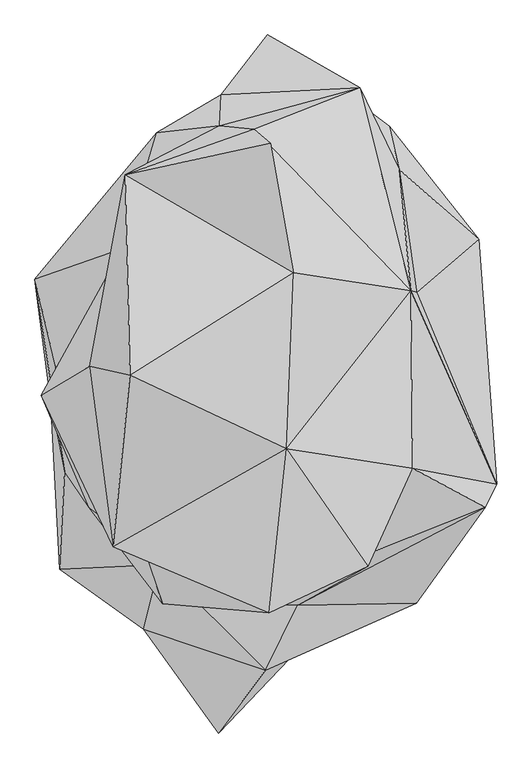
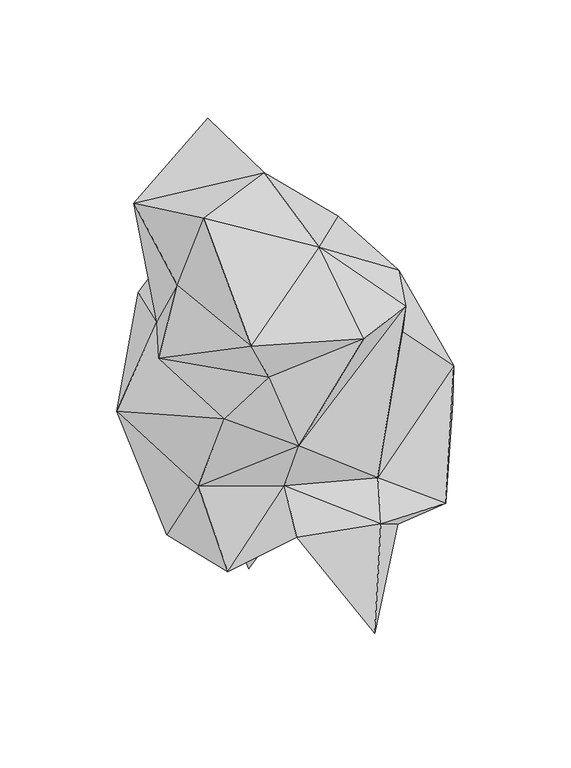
"""IFC4 building model written with IfcOpenShell, lengths in millimetres: geographic element geometry, Enscape AssetDefinition - Potted Plant 217 Dumb Cane : Enscape AssetDefinition - Potted Plant 217 Dumb Cane 2."""

from ifc_helpers import new_model, si_unit, origin, place, context, project, spatial, triangles, source, transform, mapped, element, save


def geographic_element_7dfcdec6(model_context):
    return source(origin(), model_context, "Body", "Tessellation", [
        triangles([(-248.1504237, -288.4227293, 728.7513754), (-342.7098953, 107.7399989, 545.8710048), (-291.1984501, -225.8575075, 492.9253266), (-154.0272263, -499.3928824, 447.9741096), (-126.2047148, -387.4320929, 534.7190329), (-315.0455229, -103.8081895, 272.7064466), (-133.5393416, -170.0325356, 239.2507125), (-299.9945339, -395.3829157, 327.9806345), (-84.4055039, -415.587242, 405.8313332), (55.4759788, -82.7095409, 187.9410356), (-64.3429748, -4.4116845, 151.3060442), (7.4709608, 91.6637818, 153.0074666), (-15.5090608, -10.4975185, 3.5609768), (-54.8106806, 218.4465318, 282.4241492), (185.9506047, 180.3119227, 282.6368179), (190.9021375, -287.7519854, 326.8518153), (353.1801501, -218.5010706, 416.3888646), (286.4922875, -28.8041012, 225.9174966), (74.3006156, 315.4436454, 456.9229094), (-19.2281823, 428.0587918, 626.18111), (60.7819912, 531.3271251, 562.3779551), (272.281091, 372.9046002, 424.5741935), (290.429529, 297.4315181, 714.7364605), (320.3351709, 85.512513, 672.2010481), (427.7916206, 176.6091691, 550.4298835), (-21.7094125, 373.7934631, 791.0493896), (221.44584, 439.363407, 745.4765173), (-247.9377368, 100.9343278, 271.4903508), (-131.2053544, 361.9326319, 694.3086376), (37.7310795, 367.3095202, 1006.349402), (-177.5307517, -59.2114612, 1200.0000092), (-185.7160987, 289.1425618, 1038.7418289), (65.9680392, 343.2170228, 1187.8392689), (106.5511816, 119.1209267, 1136.5949404), (-247.9214042, -43.5715183, 1002.7228792), (-332.0760241, -93.3761137, 831.3052174), (-191.3056739, 160.2712129, 744.1513802), (-155.2378355, -356.3430385, 869.4890785), (-206.967436, -356.7793127, 986.0577627), (312.8860253, -220.616948, 961.3328184), (94.014147, -186.8340174, 1090.6348097), (459.3932528, -248.0358958, 509.5086894), (309.7667753, 88.0046574, 946.5653332), (240.3577126, -366.9114341, 880.7336683), (235.4988885, -390.2513612, 978.4122992), (63.715842, -470.7469202, 983.4837919), (-120.9695784, -454.8070501, 699.6855623), (113.1332562, -458.0735295, 517.8739855), (439.4779349, -287.8392438, 656.544809), (319.3536175, -454.3162734, 363.4813382), (57.7827057, -570.0779574, 460.5984118), (-24.2833515, -679.3612215, 209.0451435), (152.1840339, -494.7575912, 379.4648466)], [[2, 1, 37], [1, 36, 37], [1, 38, 36], [9, 52, 4], [9, 16, 53], [53, 52, 9], [51, 52, 53], [4, 51, 5], [52, 51, 4], [50, 16, 17], [53, 16, 50], [53, 50, 51], [17, 42, 50], [49, 50, 42], [44, 48, 49], [48, 51, 50], [50, 49, 48], [51, 48, 5], [47, 5, 48], [1, 47, 38], [47, 46, 38], [47, 48, 45], [45, 48, 44], [47, 45, 46], [40, 45, 44], [42, 40, 49], [44, 49, 40], [43, 42, 24], [43, 40, 42], [41, 40, 43], [41, 46, 45], [45, 40, 41], [39, 38, 46], [36, 38, 39], [39, 46, 41], [36, 35, 37], [36, 39, 35], [31, 35, 39], [39, 41, 31], [34, 41, 43], [34, 31, 41], [33, 32, 34], [35, 31, 32], [31, 34, 32], [37, 35, 32], [34, 43, 30], [33, 30, 32], [34, 30, 33], [43, 27, 30], [27, 26, 30], [30, 26, 32], [37, 32, 26], [29, 37, 26], [29, 2, 37], [28, 2, 29], [27, 20, 26], [20, 28, 29], [26, 20, 29], [27, 21, 20], [23, 43, 24], [27, 23, 21], [43, 23, 27], [23, 24, 25], [42, 25, 24], [23, 22, 21], [25, 22, 23], [21, 22, 19], [19, 28, 20], [19, 20, 21], [14, 28, 19], [15, 22, 25], [19, 15, 14], [15, 19, 22], [15, 25, 18], [25, 42, 18], [17, 18, 42], [16, 18, 17], [15, 18, 12], [15, 12, 14], [14, 12, 28], [18, 10, 12], [10, 18, 16], [10, 13, 12], [11, 12, 13], [12, 11, 28], [11, 13, 10], [10, 7, 11], [10, 16, 7], [16, 9, 7], [7, 28, 11], [7, 6, 28], [6, 2, 28], [7, 9, 8], [6, 7, 8], [8, 4, 5], [8, 9, 4], [2, 6, 3], [3, 47, 1], [3, 5, 47], [3, 8, 5], [8, 3, 6], [3, 1, 2]]),
    ])


if __name__ == "__main__":
    model = new_model("IFC4")
    model_context = context("Model", 3, world=origin())
    ifc_project = project(units=[si_unit("LENGTHUNIT", "METRE", prefix="MILLI")], contexts=[model_context])
    site = spatial("IfcSite", under=ifc_project)
    building = spatial("IfcBuilding", under=site)
    placement = place(None, origin())
    geographic_element_shape = geographic_element_7dfcdec6(model_context)
    element("IfcGeographicElement", 1, ObjectType="Enscape AssetDefinition - Potted Plant 217 Dumb Cane : Enscape AssetDefinition - Potted Plant 217 Dumb Cane 2", at=placement, inside=building, context=model_context, shape_type="MappedRepresentation", body=[
        mapped(geographic_element_shape, transform((0.0, 0.0, 0.0), x_axis=(1.0, 0.0, 0.0), y_axis=(0.0, 1.0, 0.0), z_axis=(0.0, 0.0, 1.0))),
    ])
    save(model, "model.ifc")
